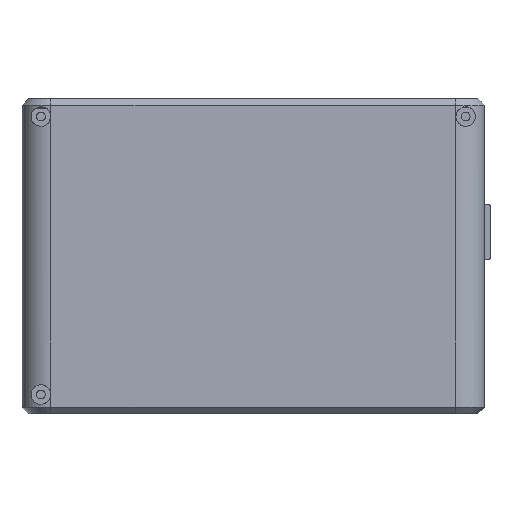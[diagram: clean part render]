
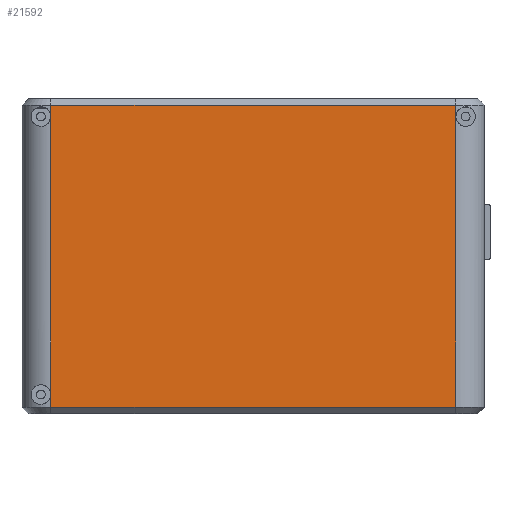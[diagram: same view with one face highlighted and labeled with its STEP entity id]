
A CAD part, left-side view. The second image highlights one B-rep face of the part: STEP entity #21592.
In plain terms, the highlighted planar face has unit normal (-1, 0, 0).
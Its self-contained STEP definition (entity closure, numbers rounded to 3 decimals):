
#21592=ADVANCED_FACE('',(#31444),#25952,.F.);
#25952=PLANE('',#117982);
#31444=FACE_OUTER_BOUND('',#37348,.T.);
#37348=EDGE_LOOP('',(#64662,#64663,#64664,#64665));
#64662=ORIENTED_EDGE('',*,*,#87471,.T.);
#64663=ORIENTED_EDGE('',*,*,#87472,.T.);
#64664=ORIENTED_EDGE('',*,*,#87473,.T.);
#64665=ORIENTED_EDGE('',*,*,#87474,.T.);
#73773=VERTEX_POINT('',#177411);
#73774=VERTEX_POINT('',#177412);
#73775=VERTEX_POINT('',#177414);
#73776=VERTEX_POINT('',#177416);
#87471=EDGE_CURVE('',#73773,#73774,#98939,.T.);
#87472=EDGE_CURVE('',#73774,#73775,#98940,.T.);
#87473=EDGE_CURVE('',#73775,#73776,#98941,.T.);
#87474=EDGE_CURVE('',#73776,#73773,#98942,.T.);
#98939=LINE('',#177410,#110396);
#98940=LINE('',#177413,#110397);
#98941=LINE('',#177415,#110398);
#98942=LINE('',#177417,#110399);
#110396=VECTOR('',#144583,1.);
#110397=VECTOR('',#144584,1.);
#110398=VECTOR('',#144585,1.);
#110399=VECTOR('',#144586,1.);
#117982=AXIS2_PLACEMENT_3D('',#177418,#144587,#144588);
#144583=DIRECTION('',(0.,0.,-1.));
#144584=DIRECTION('',(0.,-1.,0.));
#144585=DIRECTION('',(0.,0.,1.));
#144586=DIRECTION('',(0.,1.,0.));
#144587=DIRECTION('',(1.,0.,0.));
#144588=DIRECTION('',(0.,1.,0.));
#177410=CARTESIAN_POINT('',(-14.181,43.959,56.3));
#177411=CARTESIAN_POINT('',(-14.181,43.959,48.3));
#177412=CARTESIAN_POINT('',(-14.181,43.959,-19.7));
#177413=CARTESIAN_POINT('',(-14.181,164.999,-19.7));
#177414=CARTESIAN_POINT('',(-14.181,-47.159,-19.7));
#177415=CARTESIAN_POINT('',(-14.181,-47.159,56.3));
#177416=CARTESIAN_POINT('',(-14.181,-47.159,48.3));
#177417=CARTESIAN_POINT('',(-14.181,164.999,48.3));
#177418=CARTESIAN_POINT('',(-14.181,164.999,56.3));
